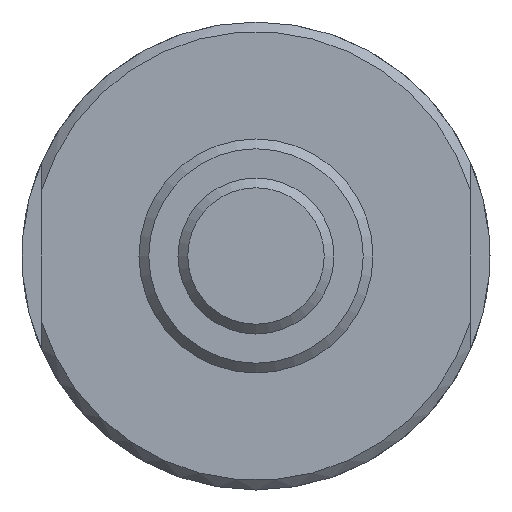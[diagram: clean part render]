
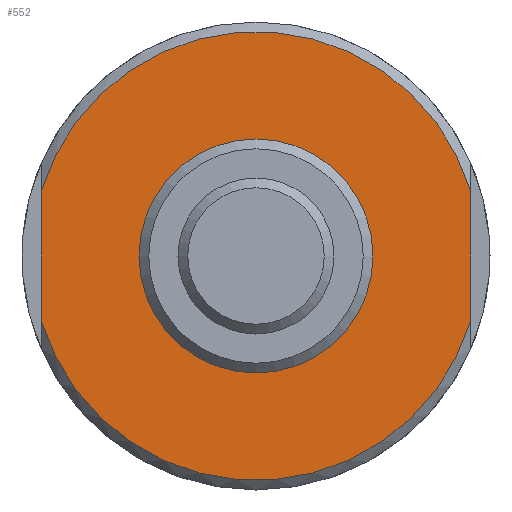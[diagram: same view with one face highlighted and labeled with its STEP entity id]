
A CAD part, left-side view. The second image highlights one B-rep face of the part: STEP entity #552.
In plain terms, the highlighted planar face has unit normal (-1, 0, 0).
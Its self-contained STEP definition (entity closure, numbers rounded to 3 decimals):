
#81=CIRCLE('',#644,11.5);
#82=CIRCLE('',#646,11.5);
#87=CIRCLE('',#653,6.);
#180=ORIENTED_EDGE('',*,*,#266,.F.);
#181=ORIENTED_EDGE('',*,*,#254,.F.);
#182=ORIENTED_EDGE('',*,*,#267,.T.);
#183=ORIENTED_EDGE('',*,*,#256,.F.);
#184=ORIENTED_EDGE('',*,*,#268,.T.);
#254=EDGE_CURVE('',#309,#307,#81,.T.);
#256=EDGE_CURVE('',#310,#312,#82,.T.);
#266=EDGE_CURVE('',#307,#310,#341,.T.);
#267=EDGE_CURVE('',#309,#312,#342,.T.);
#268=EDGE_CURVE('',#319,#319,#87,.T.);
#307=VERTEX_POINT('',#956);
#309=VERTEX_POINT('',#963);
#310=VERTEX_POINT('',#970);
#312=VERTEX_POINT('',#973);
#319=VERTEX_POINT('',#997);
#341=LINE('',#994,#359);
#342=LINE('',#995,#360);
#359=VECTOR('',#814,1000.);
#360=VECTOR('',#815,1000.);
#411=EDGE_LOOP('',(#180,#181,#182,#183));
#412=EDGE_LOOP('',(#184));
#481=FACE_BOUND('',#411,.T.);
#482=FACE_BOUND('',#412,.T.);
#516=PLANE('',#652);
#552=ADVANCED_FACE('',(#481,#482),#516,.F.);
#644=AXIS2_PLACEMENT_3D('',#964,#792,#793);
#646=AXIS2_PLACEMENT_3D('',#972,#796,#797);
#652=AXIS2_PLACEMENT_3D('',#993,#812,#813);
#653=AXIS2_PLACEMENT_3D('',#996,#816,#817);
#792=DIRECTION('',(1.,0.,0.));
#793=DIRECTION('',(0.,0.,-1.));
#796=DIRECTION('',(1.,0.,0.));
#797=DIRECTION('',(0.,0.,-1.));
#812=DIRECTION('',(1.,0.,0.));
#813=DIRECTION('',(0.,0.,-1.));
#814=DIRECTION('',(0.,0.,-1.));
#815=DIRECTION('',(0.,0.,-1.));
#816=DIRECTION('',(1.,0.,0.));
#817=DIRECTION('',(0.,0.,-1.));
#956=CARTESIAN_POINT('',(0.,-11.,3.354));
#963=CARTESIAN_POINT('',(0.,11.,3.354));
#964=CARTESIAN_POINT('',(0.,0.,0.));
#970=CARTESIAN_POINT('',(0.,-11.,-3.354));
#972=CARTESIAN_POINT('',(0.,0.,0.));
#973=CARTESIAN_POINT('',(0.,11.,-3.354));
#993=CARTESIAN_POINT('',(0.,0.,0.));
#994=CARTESIAN_POINT('',(0.,-11.,10.));
#995=CARTESIAN_POINT('',(0.,11.,10.));
#996=CARTESIAN_POINT('',(0.,0.,0.));
#997=CARTESIAN_POINT('',(0.,0.,-6.));
